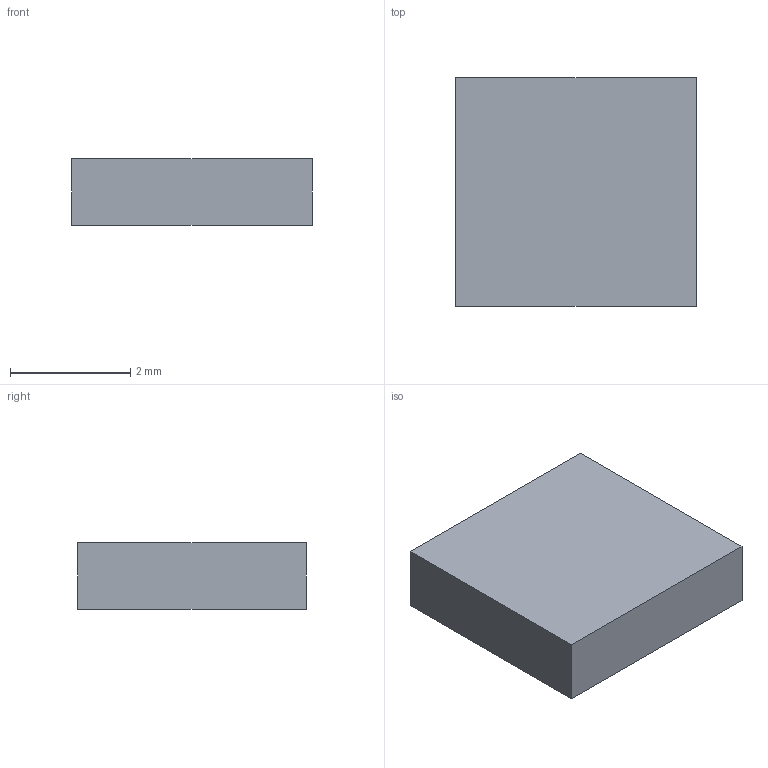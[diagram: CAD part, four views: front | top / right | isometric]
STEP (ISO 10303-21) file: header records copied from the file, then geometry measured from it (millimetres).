
FILE_DESCRIPTION(('Open CASCADE Model'),'2;1');
FILE_NAME('Open CASCADE Shape Model','2026-09-17T16:19:35',('Author'),( 'Open CASCADE'),'Open CASCADE STEP processor 7.8','Open CASCADE 7.8' ,'Unknown');
FILE_SCHEMA(('AUTOMOTIVE_DESIGN { 1 0 10303 214 1 1 1 1 }'));
Length unit declared in the file: millimetre
Products named in the file (1): Open CASCADE STEP translator 7.8 1
Bounding box: 4 x 3.8 x 1.1 mm (x, y, z)
Volume: 16.7 mm3; surface area: 47.6 mm2
Topology: 1 solids, 1 shells, 6 faces, 12 edges, 8 vertices
Faces by surface type: plane 6
Entity records: 322 total; most frequent: CARTESIAN_POINT 51, DIRECTION 50, LINE 36, VECTOR 36, ORIENTED_EDGE 24, PCURVE 24, DEFINITIONAL_REPRESENTATION 24, EDGE_CURVE 12
